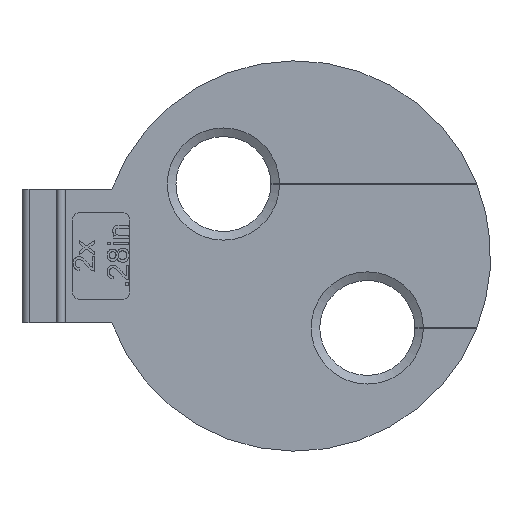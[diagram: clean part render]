
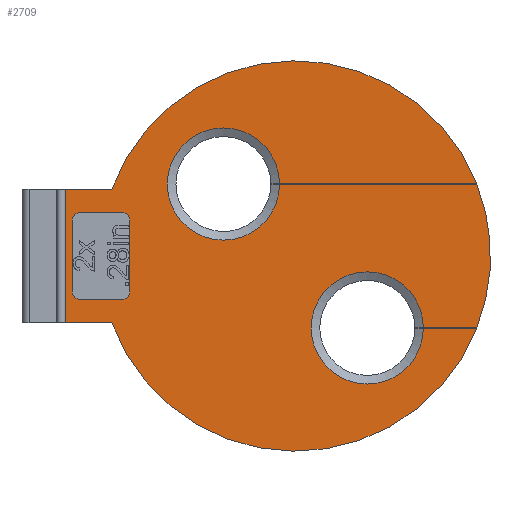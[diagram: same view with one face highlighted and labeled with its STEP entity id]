
A CAD part, left-side view. The second image highlights one B-rep face of the part: STEP entity #2709.
In plain terms, the highlighted planar face has unit normal (-1, 0, 0).
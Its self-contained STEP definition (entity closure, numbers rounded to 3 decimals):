
#53=CIRCLE('',#2797,0.5);
#54=CIRCLE('',#2800,0.5);
#55=CIRCLE('',#2803,0.5);
#56=CIRCLE('',#2806,0.5);
#66=CIRCLE('',#2829,13.57);
#69=CIRCLE('',#2833,13.57);
#70=CIRCLE('',#2835,13.57);
#78=CIRCLE('',#2848,3.9);
#81=CIRCLE('',#2854,3.9);
#100=FACE_BOUND('',#511,.T.);
#356=FACE_OUTER_BOUND('',#510,.T.);
#510=EDGE_LOOP('',(#2430,#2431,#2432,#2433,#2434,#2435,#2436,#2437,#2438,
#2439,#2440,#2441));
#511=EDGE_LOOP('',(#2442,#2443,#2444,#2445,#2446,#2447,#2448,#2449));
#693=LINE('',#4501,#957);
#696=LINE('',#4509,#960);
#699=LINE('',#4517,#963);
#702=LINE('',#4524,#966);
#707=LINE('',#4537,#971);
#717=LINE('',#4566,#981);
#725=LINE('',#4583,#989);
#735=LINE('',#4612,#999);
#746=LINE('',#4690,#1010);
#768=LINE('',#4746,#1032);
#774=LINE('',#4757,#1038);
#957=VECTOR('',#3175,10.);
#960=VECTOR('',#3184,10.);
#963=VECTOR('',#3193,10.);
#966=VECTOR('',#3202,10.);
#971=VECTOR('',#3211,10.);
#981=VECTOR('',#3223,10.);
#989=VECTOR('',#3233,10.);
#999=VECTOR('',#3245,10.);
#1010=VECTOR('',#3344,10.);
#1032=VECTOR('',#3388,10.);
#1038=VECTOR('',#3404,10.);
#1223=VERTEX_POINT('',#4494);
#1224=VERTEX_POINT('',#4496);
#1225=VERTEX_POINT('',#4500);
#1226=VERTEX_POINT('',#4504);
#1227=VERTEX_POINT('',#4508);
#1228=VERTEX_POINT('',#4512);
#1229=VERTEX_POINT('',#4516);
#1230=VERTEX_POINT('',#4520);
#1235=VERTEX_POINT('',#4534);
#1236=VERTEX_POINT('',#4536);
#1247=VERTEX_POINT('',#4563);
#1248=VERTEX_POINT('',#4565);
#1255=VERTEX_POINT('',#4580);
#1256=VERTEX_POINT('',#4582);
#1267=VERTEX_POINT('',#4609);
#1268=VERTEX_POINT('',#4611);
#1271=VERTEX_POINT('',#4634);
#1274=VERTEX_POINT('',#4642);
#1285=VERTEX_POINT('',#4688);
#1308=VERTEX_POINT('',#4745);
#1570=EDGE_CURVE('',#1224,#1223,#53,.T.);
#1572=EDGE_CURVE('',#1225,#1224,#693,.T.);
#1574=EDGE_CURVE('',#1226,#1225,#54,.T.);
#1576=EDGE_CURVE('',#1227,#1226,#696,.T.);
#1578=EDGE_CURVE('',#1228,#1227,#55,.T.);
#1580=EDGE_CURVE('',#1229,#1228,#699,.T.);
#1582=EDGE_CURVE('',#1230,#1229,#56,.T.);
#1584=EDGE_CURVE('',#1223,#1230,#702,.T.);
#1589=EDGE_CURVE('',#1236,#1235,#707,.T.);
#1601=EDGE_CURVE('',#1248,#1247,#717,.T.);
#1609=EDGE_CURVE('',#1256,#1255,#725,.T.);
#1621=EDGE_CURVE('',#1268,#1267,#735,.T.);
#1634=EDGE_CURVE('',#1256,#1271,#66,.T.);
#1639=EDGE_CURVE('',#1274,#1247,#69,.T.);
#1640=EDGE_CURVE('',#1236,#1267,#70,.T.);
#1654=EDGE_CURVE('',#1235,#1248,#78,.T.);
#1657=EDGE_CURVE('',#1255,#1268,#81,.T.);
#1660=EDGE_CURVE('',#1274,#1285,#746,.T.);
#1689=EDGE_CURVE('',#1308,#1271,#768,.T.);
#1695=EDGE_CURVE('',#1285,#1308,#774,.T.);
#2430=ORIENTED_EDGE('',*,*,#1589,.T.);
#2431=ORIENTED_EDGE('',*,*,#1654,.T.);
#2432=ORIENTED_EDGE('',*,*,#1601,.T.);
#2433=ORIENTED_EDGE('',*,*,#1639,.F.);
#2434=ORIENTED_EDGE('',*,*,#1660,.T.);
#2435=ORIENTED_EDGE('',*,*,#1695,.T.);
#2436=ORIENTED_EDGE('',*,*,#1689,.T.);
#2437=ORIENTED_EDGE('',*,*,#1634,.F.);
#2438=ORIENTED_EDGE('',*,*,#1609,.T.);
#2439=ORIENTED_EDGE('',*,*,#1657,.T.);
#2440=ORIENTED_EDGE('',*,*,#1621,.T.);
#2441=ORIENTED_EDGE('',*,*,#1640,.F.);
#2442=ORIENTED_EDGE('',*,*,#1570,.T.);
#2443=ORIENTED_EDGE('',*,*,#1584,.T.);
#2444=ORIENTED_EDGE('',*,*,#1582,.T.);
#2445=ORIENTED_EDGE('',*,*,#1580,.T.);
#2446=ORIENTED_EDGE('',*,*,#1578,.T.);
#2447=ORIENTED_EDGE('',*,*,#1576,.T.);
#2448=ORIENTED_EDGE('',*,*,#1574,.T.);
#2449=ORIENTED_EDGE('',*,*,#1572,.T.);
#2568=PLANE('',#2873);
#2709=ADVANCED_FACE('',(#356,#100),#2568,.F.);
#2797=AXIS2_PLACEMENT_3D('',#4497,#3170,#3171);
#2800=AXIS2_PLACEMENT_3D('',#4505,#3179,#3180);
#2803=AXIS2_PLACEMENT_3D('',#4513,#3188,#3189);
#2806=AXIS2_PLACEMENT_3D('',#4521,#3197,#3198);
#2829=AXIS2_PLACEMENT_3D('',#4635,#3281,#3282);
#2833=AXIS2_PLACEMENT_3D('',#4644,#3291,#3292);
#2835=AXIS2_PLACEMENT_3D('',#4646,#3295,#3296);
#2848=AXIS2_PLACEMENT_3D('',#4677,#3325,#3326);
#2854=AXIS2_PLACEMENT_3D('',#4683,#3337,#3338);
#2873=AXIS2_PLACEMENT_3D('',#4758,#3405,#3406);
#3170=DIRECTION('center_axis',(1.,0.,0.));
#3171=DIRECTION('ref_axis',(0.,-1.,0.));
#3175=DIRECTION('',(0.,1.,0.));
#3179=DIRECTION('center_axis',(1.,0.,0.));
#3180=DIRECTION('ref_axis',(0.,0.,1.));
#3184=DIRECTION('',(0.,0.,-1.));
#3188=DIRECTION('center_axis',(1.,0.,0.));
#3189=DIRECTION('ref_axis',(0.,1.,0.));
#3193=DIRECTION('',(0.,-1.,0.));
#3197=DIRECTION('center_axis',(1.,0.,0.));
#3198=DIRECTION('ref_axis',(0.,0.,-1.));
#3202=DIRECTION('',(0.,0.,1.));
#3211=DIRECTION('',(0.,1.,0.));
#3223=DIRECTION('',(0.,-1.,0.));
#3233=DIRECTION('',(0.,1.,0.));
#3245=DIRECTION('',(0.,-1.,0.));
#3281=DIRECTION('center_axis',(1.,0.,0.));
#3282=DIRECTION('ref_axis',(0.,0.,-1.));
#3291=DIRECTION('center_axis',(1.,0.,0.));
#3292=DIRECTION('ref_axis',(0.,0.,-1.));
#3295=DIRECTION('center_axis',(1.,0.,0.));
#3296=DIRECTION('ref_axis',(0.,0.,-1.));
#3325=DIRECTION('center_axis',(1.,0.,0.));
#3326=DIRECTION('ref_axis',(0.,0.,-1.));
#3337=DIRECTION('center_axis',(1.,0.,0.));
#3338=DIRECTION('ref_axis',(0.,0.,1.));
#3344=DIRECTION('',(0.,1.,0.));
#3388=DIRECTION('',(0.,-1.,0.));
#3404=DIRECTION('',(0.,0.,-1.));
#3405=DIRECTION('center_axis',(1.,0.,0.));
#3406=DIRECTION('ref_axis',(0.,0.,-1.));
#4494=CARTESIAN_POINT('',(-0.8,15.5,-2.5));
#4496=CARTESIAN_POINT('',(-0.8,15.,-3.));
#4497=CARTESIAN_POINT('Origin',(-0.8,15.,-2.5));
#4500=CARTESIAN_POINT('',(-0.8,12.,-3.));
#4501=CARTESIAN_POINT('',(-0.8,7.5,-3.));
#4504=CARTESIAN_POINT('',(-0.8,11.5,-2.5));
#4505=CARTESIAN_POINT('Origin',(-0.8,12.,-2.5));
#4508=CARTESIAN_POINT('',(-0.8,11.5,2.5));
#4509=CARTESIAN_POINT('',(-0.8,11.5,-1.25));
#4512=CARTESIAN_POINT('',(-0.8,12.,3.));
#4513=CARTESIAN_POINT('Origin',(-0.8,12.,2.5));
#4516=CARTESIAN_POINT('',(-0.8,15.,3.));
#4517=CARTESIAN_POINT('',(-0.8,6.,3.));
#4520=CARTESIAN_POINT('',(-0.8,15.5,2.5));
#4521=CARTESIAN_POINT('Origin',(-0.8,15.,2.5));
#4524=CARTESIAN_POINT('',(-0.8,15.5,1.25));
#4534=CARTESIAN_POINT('',(-0.8,1.1,4.995));
#4536=CARTESIAN_POINT('',(-0.8,-12.617,4.995));
#4537=CARTESIAN_POINT('',(-0.8,-6.309,4.995));
#4563=CARTESIAN_POINT('',(-0.8,-12.613,5.005));
#4565=CARTESIAN_POINT('',(-0.8,1.1,5.005));
#4566=CARTESIAN_POINT('',(-0.8,0.85,5.005));
#4580=CARTESIAN_POINT('',(-0.8,-8.9,-5.005));
#4582=CARTESIAN_POINT('',(-0.8,-12.613,-5.005));
#4583=CARTESIAN_POINT('',(-0.8,-6.307,-5.005));
#4609=CARTESIAN_POINT('',(-0.8,-12.617,-4.995));
#4611=CARTESIAN_POINT('',(-0.8,-8.9,-4.995));
#4612=CARTESIAN_POINT('',(-0.8,-4.15,-4.995));
#4634=CARTESIAN_POINT('',(-0.8,12.748,-4.65));
#4635=CARTESIAN_POINT('Origin',(-0.8,0.,0.));
#4642=CARTESIAN_POINT('',(-0.8,12.748,4.65));
#4644=CARTESIAN_POINT('Origin',(-0.8,0.,0.));
#4646=CARTESIAN_POINT('Origin',(-0.8,0.,0.));
#4677=CARTESIAN_POINT('Origin',(-0.8,5.,5.));
#4683=CARTESIAN_POINT('Origin',(-0.8,-5.,-5.));
#4688=CARTESIAN_POINT('',(-0.8,16.,4.65));
#4690=CARTESIAN_POINT('',(-0.8,15.618,4.65));
#4745=CARTESIAN_POINT('',(-0.8,16.,-4.65));
#4746=CARTESIAN_POINT('',(-0.8,13.655,-4.65));
#4757=CARTESIAN_POINT('',(-0.8,16.,2.325));
#4758=CARTESIAN_POINT('Origin',(-0.8,0.,0.));
